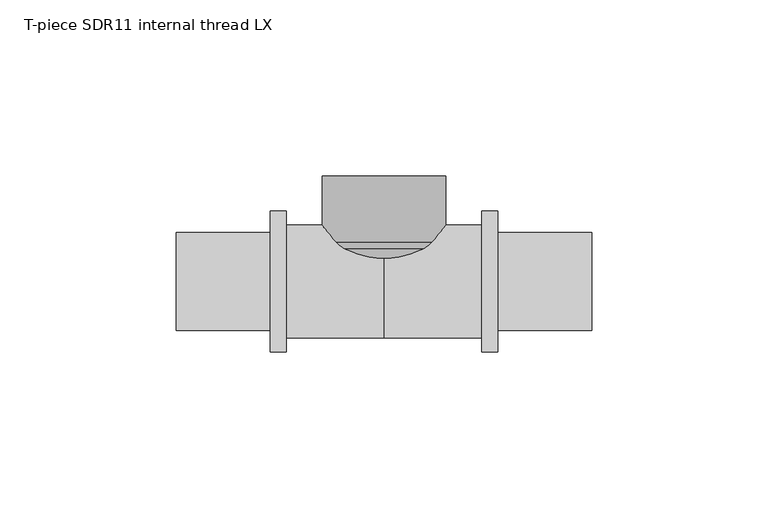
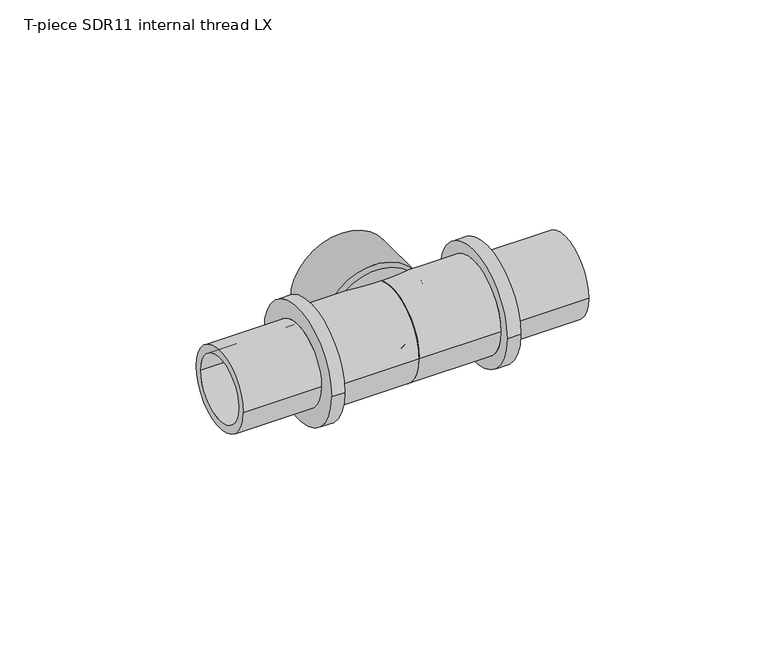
"""IFC4 building model written with IfcOpenShell, lengths in millimetres: pipe fitting geometry, T-piece SDR11 internal thread LX : T-piece LX SDR11 internal LX."""

from ifc_helpers import new_model, si_unit, point, frame, origin, place, context, project, spatial, polyline, circle_curve, ellipse_curve, trimmed, source, transform, mapped, element, save
from ifc_brep_helpers import plane_surface, cylinder_surface, revolved_surface, advanced_brep


def t_piece_sdr11_internal_thread_lx_835d7b5e(model_context):
    return source(origin(), model_context, "Body", "AdvancedBrep", [
        advanced_brep(
        [(12.55, 12.05, 0.0), (-12.55, 12.05, 0.0), (-12.55, 30.0, 0.0), (12.55, 30.0, 0.0), (0.5, 0.0, 0.0), (-0.5, 0.0, 0.0), (16.7683856, 9.2680285, 0.0), (-16.7683856, 9.2680285, 0.0), (-7.5003571, 0.0, 0.0), (7.5003571, 0.0, 0.0), (17.5, 11.0343019, 0.0), (-17.5, 11.0343019, 0.0), (17.5, 30.0, 0.0), (-17.5, 30.0, 0.0)],
        [
            (0, 1, circle_curve(frame((0.0, 12.05, 0.0), z_axis=(0.0, -1.0, 0.0), x_axis=(-1.0, 0.0, 0.0)), 12.55)),
            (1, 2),
            (2, 3, circle_curve(frame((0.0, 30.0, 0.0), z_axis=(0.0, 1.0, 0.0), x_axis=(-1.0, 0.0, 0.0)), 12.55)),
            (3, 0),
            (4, 5, circle_curve(frame((0.0, 0.0, 0.0), z_axis=(0.0, -1.0, 0.0), x_axis=(-1.0, 0.0, 0.0)), 0.5)),
            (5, 1),
            (0, 4),
            (6, 7, circle_curve(frame((0.0, 9.2680285, 0.0), z_axis=(0.0, -1.0, 0.0), x_axis=(-1.0, 0.0, 0.0)), 16.7683856)),
            (7, 8),
            (8, 9, circle_curve(frame((0.0, 0.0, 0.0), z_axis=(0.0, 1.0, 0.0), x_axis=(-1.0, 0.0, 0.0)), 7.5003571)),
            (9, 6),
            (10, 11, circle_curve(frame((0.0, 11.0343019, 0.0), z_axis=(0.0, -1.0, 0.0), x_axis=(-1.0, 0.0, 0.0)), 17.5)),
            (11, 7, circle_curve(frame((-12.55, 12.05, 0.0), z_axis=(0.0, 0.0, 1.0), x_axis=(0.0, 1.0, 0.0)), 5.053132)),
            (6, 10, circle_curve(frame((12.55, 12.05, 0.0), z_axis=(0.0, 0.0, 1.0), x_axis=(0.0, 1.0, 0.0)), 5.053132)),
            (12, 13, circle_curve(frame((0.0, 30.0, 0.0), z_axis=(0.0, -1.0, 0.0), x_axis=(-1.0, 0.0, 0.0)), 17.5)),
            (13, 11),
            (10, 12),
            (12, 13, circle_curve(frame((0.0, 30.0, 0.0), z_axis=(0.0, 1.0, 0.0), x_axis=(1.0, 0.0, 0.0)), 17.5)),
            (2, 3, circle_curve(frame((0.0, 30.0, 0.0), z_axis=(0.0, -1.0, 0.0), x_axis=(1.0, 0.0, 0.0)), 12.55)),
            (1, 0, circle_curve(frame((0.0, 12.05, 0.0), z_axis=(0.0, -1.0, 0.0), x_axis=(1.0, 0.0, 0.0)), 12.55)),
            (5, 4, circle_curve(frame((0.0, 0.0, 0.0), z_axis=(0.0, -1.0, 0.0), x_axis=(1.0, 0.0, 0.0)), 0.5)),
            (8, 9, circle_curve(frame((0.0, 0.0, 0.0), z_axis=(0.0, -1.0, 0.0), x_axis=(1.0, 0.0, 0.0)), 7.5003571)),
            (7, 6, circle_curve(frame((0.0, 9.2680285, 0.0), z_axis=(0.0, -1.0, 0.0), x_axis=(1.0, 0.0, 0.0)), 16.7683856)),
            (11, 10, circle_curve(frame((0.0, 11.0343019, 0.0), z_axis=(0.0, -1.0, 0.0), x_axis=(1.0, 0.0, 0.0)), 17.5)),
        ],
        [
            revolved_surface(polyline([(-12.55, 30.0, 0.0), (-12.55, 12.05, 0.0)]), (0.0, 0.0, 0.0), (0.0, 1.0, 0.0)),
            revolved_surface(polyline([(-12.55, 12.05, 0.0), (-0.5, 0.0, 0.0)]), (0.0, 0.0, 0.0), (0.0, 1.0, 0.0)),
            revolved_surface(polyline([(-7.5003571, 0.0, 0.0), (-16.7683856, 9.2680285, 0.0)]), (0.0, 0.0, 0.0), (0.0, 1.0, 0.0)),
            revolved_surface(trimmed(ellipse_curve(frame((-12.55, 12.05, 0.0), z_axis=(0.0, 0.0, -1.0), x_axis=(0.0, 1.0, 0.0)), 5.053132, 5.053132), [point((-16.7683856, 9.2680285, 0.0))], [point((-17.5, 11.0343019, 0.0))], True, "CARTESIAN"), (0.0, 0.0, 0.0), (0.0, 1.0, 0.0)),
            cylinder_surface(frame((0.0, 0.0, 0.0), z_axis=(0.0, 1.0, 0.0), x_axis=(-1.0, 0.0, 0.0)), 17.5),
            plane_surface(frame((0.0, 30.0, 0.0), z_axis=(0.0, 1.0, 0.0), x_axis=(1.0, 0.0, 0.0))),
            revolved_surface(polyline([(12.55, 30.0, 0.0), (12.55, 12.05, 0.0)]), (0.0, 0.0, 0.0), (0.0, 1.0, 0.0)),
            revolved_surface(polyline([(12.55, 12.05, 0.0), (0.5, 0.0, 0.0)]), (0.0, 0.0, 0.0), (0.0, 1.0, 0.0)),
            plane_surface(frame((0.0, 0.0, 0.0), z_axis=(0.0, -1.0, 0.0), x_axis=(1.0, 0.0, 0.0))),
            revolved_surface(polyline([(7.5003571, 0.0, 0.0), (16.7683856, 9.2680285, 0.0)]), (0.0, 0.0, 0.0), (0.0, 1.0, 0.0)),
            revolved_surface(trimmed(ellipse_curve(frame((12.55, 12.05, 0.0), z_axis=(0.0, 0.0, 1.0), x_axis=(0.0, 1.0, 0.0)), 5.053132, 5.053132), [point((16.7683856, 9.2680285, 0.0))], [point((17.5, 11.0343019, 0.0))], True, "CARTESIAN"), (0.0, 0.0, 0.0), (0.0, 1.0, 0.0)),
            cylinder_surface(frame((0.0, 0.0, 0.0), z_axis=(0.0, 1.0, 0.0), x_axis=(1.0, 0.0, 0.0)), 17.5),
        ],
        [
            (0, [[1, 2, 3, 4]]),
            (1, [[5, 6, -1, 7]]),
            (2, [[8, 9, 10, 11]]),
            (3, [[12, 13, -8, 14]]),
            (4, [[15, 16, -12, 17]]),
            (5, [[18, -15], [19, -3]]),
            (6, [[20, -4, -19, -2]]),
            (7, [[21, -7, -20, -6]]),
            (8, [[22, -10], [-21, -5]]),
            (9, [[23, -11, -22, -9]]),
            (10, [[24, -14, -23, -13]]),
            (11, [[-18, -17, -24, -16]]),
        ],
    ),
        advanced_brep(
        [(32.3, 20.0, 0.0), (32.3, -20.0, 0.0), (27.8, -20.0, 0.0), (27.8, 20.0, 0.0), (59.0, 13.95, 0.0), (59.0, -13.95, 0.0), (32.3, -13.95, 0.0), (32.3, 13.95, 0.0), (0.0, 11.2, 0.0), (0.0, -11.2, 0.0), (59.0, -11.2, 0.0), (59.0, 11.2, 0.0), (27.8, 16.0, 0.0), (27.8, -16.0, 0.0), (0.0, -16.0, 0.0), (0.0, 16.0, 0.0)],
        [
            (0, 1, circle_curve(frame((32.3, 0.0, 0.0), z_axis=(-1.0, 0.0, 0.0), x_axis=(0.0, -1.0, 0.0)), 20.0)),
            (1, 2),
            (2, 3, circle_curve(frame((27.8, 0.0, 0.0), z_axis=(1.0, 0.0, 0.0), x_axis=(0.0, -1.0, 0.0)), 20.0)),
            (3, 0),
            (4, 5, circle_curve(frame((59.0, 0.0, 0.0), z_axis=(-1.0, 0.0, 0.0), x_axis=(0.0, -1.0, 0.0)), 13.95)),
            (5, 6),
            (6, 7, circle_curve(frame((32.3, 0.0, 0.0), z_axis=(1.0, 0.0, 0.0), x_axis=(0.0, -1.0, 0.0)), 13.95)),
            (7, 4),
            (8, 9, circle_curve(frame((0.0, 0.0, 0.0), z_axis=(-1.0, 0.0, 0.0), x_axis=(0.0, -1.0, 0.0)), 11.2)),
            (9, 10),
            (10, 11, circle_curve(frame((59.0, 0.0, 0.0), z_axis=(1.0, 0.0, 0.0), x_axis=(0.0, -1.0, 0.0)), 11.2)),
            (11, 8),
            (12, 13, circle_curve(frame((27.8, 0.0, 0.0), z_axis=(-1.0, 0.0, 0.0), x_axis=(0.0, -1.0, 0.0)), 16.0)),
            (13, 14),
            (14, 15, circle_curve(frame((0.0, 0.0, 0.0), z_axis=(1.0, 0.0, 0.0), x_axis=(0.0, -1.0, 0.0)), 16.0)),
            (15, 12),
            (1, 0, circle_curve(frame((32.3, 0.0, 0.0), z_axis=(-1.0, 0.0, 0.0), x_axis=(0.0, 1.0, 0.0)), 20.0)),
            (3, 2, circle_curve(frame((27.8, 0.0, 0.0), z_axis=(1.0, 0.0, 0.0), x_axis=(0.0, 1.0, 0.0)), 20.0)),
            (6, 7, circle_curve(frame((32.3, 0.0, 0.0), z_axis=(-1.0, 0.0, 0.0), x_axis=(0.0, 1.0, 0.0)), 13.95)),
            (5, 4, circle_curve(frame((59.0, 0.0, 0.0), z_axis=(-1.0, 0.0, 0.0), x_axis=(0.0, 1.0, 0.0)), 13.95)),
            (10, 11, circle_curve(frame((59.0, 0.0, 0.0), z_axis=(-1.0, 0.0, 0.0), x_axis=(0.0, 1.0, 0.0)), 11.2)),
            (9, 8, circle_curve(frame((0.0, 0.0, 0.0), z_axis=(-1.0, 0.0, 0.0), x_axis=(0.0, 1.0, 0.0)), 11.2)),
            (14, 15, circle_curve(frame((0.0, 0.0, 0.0), z_axis=(-1.0, 0.0, 0.0), x_axis=(0.0, 1.0, 0.0)), 16.0)),
            (13, 12, circle_curve(frame((27.8, 0.0, 0.0), z_axis=(-1.0, 0.0, 0.0), x_axis=(0.0, 1.0, 0.0)), 16.0)),
        ],
        [
            cylinder_surface(frame((0.0, 0.0, 0.0), z_axis=(1.0, 0.0, 0.0), x_axis=(0.0, -1.0, 0.0)), 20.0),
            cylinder_surface(frame((0.0, 0.0, 0.0), z_axis=(1.0, 0.0, 0.0), x_axis=(0.0, -1.0, 0.0)), 13.95),
            revolved_surface(polyline([(59.0, -11.2, 0.0), (0.0, -11.2, 0.0)]), (0.0, 0.0, 0.0), (1.0, 0.0, 0.0)),
            cylinder_surface(frame((0.0, 0.0, 0.0), z_axis=(1.0, 0.0, 0.0), x_axis=(0.0, -1.0, 0.0)), 16.0),
            cylinder_surface(frame((0.0, 0.0, 0.0), z_axis=(1.0, 0.0, 0.0), x_axis=(0.0, 1.0, 0.0)), 20.0),
            plane_surface(frame((32.3, 0.0, 0.0), z_axis=(1.0, 0.0, 0.0), x_axis=(0.0, 1.0, 0.0))),
            cylinder_surface(frame((0.0, 0.0, 0.0), z_axis=(1.0, 0.0, 0.0), x_axis=(0.0, 1.0, 0.0)), 13.95),
            plane_surface(frame((59.0, 0.0, 0.0), z_axis=(1.0, 0.0, 0.0), x_axis=(0.0, 1.0, 0.0))),
            revolved_surface(polyline([(59.0, 11.2, 0.0), (0.0, 11.2, 0.0)]), (0.0, 0.0, 0.0), (1.0, 0.0, 0.0)),
            plane_surface(frame((0.0, 0.0, 0.0), z_axis=(-1.0, 0.0, 0.0), x_axis=(0.0, 1.0, 0.0))),
            cylinder_surface(frame((0.0, 0.0, 0.0), z_axis=(1.0, 0.0, 0.0), x_axis=(0.0, 1.0, 0.0)), 16.0),
            plane_surface(frame((27.8, 0.0, 0.0), z_axis=(-1.0, 0.0, 0.0), x_axis=(0.0, 1.0, 0.0))),
        ],
        [
            (0, [[1, 2, 3, 4]]),
            (1, [[5, 6, 7, 8]]),
            (2, [[9, 10, 11, 12]]),
            (3, [[13, 14, 15, 16]]),
            (4, [[17, -4, 18, -2]]),
            (5, [[-17, -1], [19, -7]]),
            (6, [[20, -8, -19, -6]]),
            (7, [[-20, -5], [21, -11]]),
            (8, [[22, -12, -21, -10]]),
            (9, [[23, -15], [-22, -9]]),
            (10, [[24, -16, -23, -14]]),
            (11, [[-18, -3], [-24, -13]]),
        ],
    ),
        advanced_brep(
        [(0.0, 16.0, 0.0), (0.0, -16.0, 0.0), (-27.8, -16.0, 0.0), (-27.8, 16.0, 0.0), (-59.0, 11.2, 0.0), (-59.0, -11.2, 0.0), (0.0, -11.2, 0.0), (0.0, 11.2, 0.0), (-32.3, 13.95, 0.0), (-32.3, -13.95, 0.0), (-59.0, -13.95, 0.0), (-59.0, 13.95, 0.0), (-27.8, 20.0, 0.0), (-27.8, -20.0, 0.0), (-32.3, -20.0, 0.0), (-32.3, 20.0, 0.0)],
        [
            (0, 1, circle_curve(frame((0.0, 0.0, 0.0), z_axis=(-1.0, 0.0, 0.0), x_axis=(0.0, -1.0, 0.0)), 16.0)),
            (1, 2),
            (2, 3, circle_curve(frame((-27.8, 0.0, 0.0), z_axis=(1.0, 0.0, 0.0), x_axis=(0.0, -1.0, 0.0)), 16.0)),
            (3, 0),
            (4, 5, circle_curve(frame((-59.0, 0.0, 0.0), z_axis=(-1.0, 0.0, 0.0), x_axis=(0.0, -1.0, 0.0)), 11.2)),
            (5, 6),
            (6, 7, circle_curve(frame((0.0, 0.0, 0.0), z_axis=(1.0, 0.0, 0.0), x_axis=(0.0, -1.0, 0.0)), 11.2)),
            (7, 4),
            (8, 9, circle_curve(frame((-32.3, 0.0, 0.0), z_axis=(-1.0, 0.0, 0.0), x_axis=(0.0, -1.0, 0.0)), 13.95)),
            (9, 10),
            (10, 11, circle_curve(frame((-59.0, 0.0, 0.0), z_axis=(1.0, 0.0, 0.0), x_axis=(0.0, -1.0, 0.0)), 13.95)),
            (11, 8),
            (12, 13, circle_curve(frame((-27.8, 0.0, 0.0), z_axis=(-1.0, 0.0, 0.0), x_axis=(0.0, -1.0, 0.0)), 20.0)),
            (13, 14),
            (14, 15, circle_curve(frame((-32.3, 0.0, 0.0), z_axis=(1.0, 0.0, 0.0), x_axis=(0.0, -1.0, 0.0)), 20.0)),
            (15, 12),
            (12, 13, circle_curve(frame((-27.8, 0.0, 0.0), z_axis=(1.0, 0.0, 0.0), x_axis=(0.0, 1.0, 0.0)), 20.0)),
            (2, 3, circle_curve(frame((-27.8, 0.0, 0.0), z_axis=(-1.0, 0.0, 0.0), x_axis=(0.0, 1.0, 0.0)), 16.0)),
            (1, 0, circle_curve(frame((0.0, 0.0, 0.0), z_axis=(-1.0, 0.0, 0.0), x_axis=(0.0, 1.0, 0.0)), 16.0)),
            (6, 7, circle_curve(frame((0.0, 0.0, 0.0), z_axis=(-1.0, 0.0, 0.0), x_axis=(0.0, 1.0, 0.0)), 11.2)),
            (5, 4, circle_curve(frame((-59.0, 0.0, 0.0), z_axis=(-1.0, 0.0, 0.0), x_axis=(0.0, 1.0, 0.0)), 11.2)),
            (10, 11, circle_curve(frame((-59.0, 0.0, 0.0), z_axis=(-1.0, 0.0, 0.0), x_axis=(0.0, 1.0, 0.0)), 13.95)),
            (9, 8, circle_curve(frame((-32.3, 0.0, 0.0), z_axis=(-1.0, 0.0, 0.0), x_axis=(0.0, 1.0, 0.0)), 13.95)),
            (14, 15, circle_curve(frame((-32.3, 0.0, 0.0), z_axis=(-1.0, 0.0, 0.0), x_axis=(0.0, 1.0, 0.0)), 20.0)),
        ],
        [
            cylinder_surface(frame((0.0, 0.0, 0.0), z_axis=(1.0, 0.0, 0.0), x_axis=(0.0, -1.0, 0.0)), 16.0),
            revolved_surface(polyline([(0.0, -11.2, 0.0), (-59.0, -11.2, 0.0)]), (0.0, 0.0, 0.0), (1.0, 0.0, 0.0)),
            cylinder_surface(frame((0.0, 0.0, 0.0), z_axis=(1.0, 0.0, 0.0), x_axis=(0.0, -1.0, 0.0)), 13.95),
            cylinder_surface(frame((0.0, 0.0, 0.0), z_axis=(1.0, 0.0, 0.0), x_axis=(0.0, -1.0, 0.0)), 20.0),
            plane_surface(frame((-27.8, 0.0, 0.0), z_axis=(1.0, 0.0, 0.0), x_axis=(0.0, 1.0, 0.0))),
            cylinder_surface(frame((0.0, 0.0, 0.0), z_axis=(1.0, 0.0, 0.0), x_axis=(0.0, 1.0, 0.0)), 16.0),
            plane_surface(frame((0.0, 0.0, 0.0), z_axis=(1.0, 0.0, 0.0), x_axis=(0.0, 1.0, 0.0))),
            revolved_surface(polyline([(0.0, 11.2, 0.0), (-59.0, 11.2, 0.0)]), (0.0, 0.0, 0.0), (1.0, 0.0, 0.0)),
            plane_surface(frame((-59.0, 0.0, 0.0), z_axis=(-1.0, 0.0, 0.0), x_axis=(0.0, 1.0, 0.0))),
            cylinder_surface(frame((0.0, 0.0, 0.0), z_axis=(1.0, 0.0, 0.0), x_axis=(0.0, 1.0, 0.0)), 13.95),
            plane_surface(frame((-32.3, 0.0, 0.0), z_axis=(-1.0, 0.0, 0.0), x_axis=(0.0, 1.0, 0.0))),
            cylinder_surface(frame((0.0, 0.0, 0.0), z_axis=(1.0, 0.0, 0.0), x_axis=(0.0, 1.0, 0.0)), 20.0),
        ],
        [
            (0, [[1, 2, 3, 4]]),
            (1, [[5, 6, 7, 8]]),
            (2, [[9, 10, 11, 12]]),
            (3, [[13, 14, 15, 16]]),
            (4, [[17, -13], [18, -3]]),
            (5, [[19, -4, -18, -2]]),
            (6, [[-19, -1], [20, -7]]),
            (7, [[21, -8, -20, -6]]),
            (8, [[22, -11], [-21, -5]]),
            (9, [[23, -12, -22, -10]]),
            (10, [[24, -15], [-23, -9]]),
            (11, [[-17, -16, -24, -14]]),
        ],
    ),
    ])


if __name__ == "__main__":
    model = new_model("IFC4")
    model_context = context("Model", 3, world=origin())
    ifc_project = project(units=[si_unit("LENGTHUNIT", "METRE", prefix="MILLI")], contexts=[model_context])
    site = spatial("IfcSite", under=ifc_project)
    building = spatial("IfcBuilding", under=site)
    placement = place(None, origin())
    t_piece_sdr11_internal_thread_lx_shape = t_piece_sdr11_internal_thread_lx_835d7b5e(model_context)
    element("IfcPipeFitting", 1, ObjectType="T-piece SDR11 internal thread LX : T-piece LX SDR11 internal LX", at=placement, inside=building, context=model_context, shape_type="MappedRepresentation", body=[
        mapped(t_piece_sdr11_internal_thread_lx_shape, transform((0.0, 0.0, 0.0), x_axis=(1.0, 0.0, 0.0), y_axis=(0.0, 1.0, 0.0), z_axis=(0.0, 0.0, 1.0))),
    ])
    save(model, "model.ifc")
